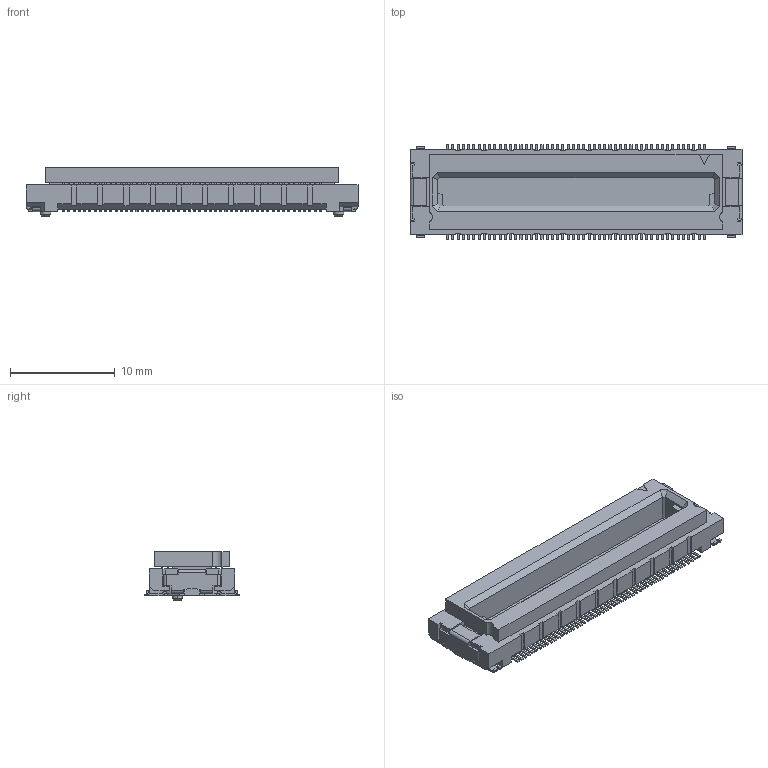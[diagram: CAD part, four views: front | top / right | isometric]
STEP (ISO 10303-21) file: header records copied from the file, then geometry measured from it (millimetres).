
FILE_DESCRIPTION(('Creo Elements/Direct Modeling STEP Export'),'2;1');
FILE_NAME('P39563_DY01-100S.stp','2017-08-10T14:28:58',(''),(''),'Creo Elements/Direct Modeling STEP processor for AP214 (Solid Model)','Creo Elements/Direct Modeling 19.0F 14-Feb-2017 (C) Parametric Technology GmbH','');
FILE_SCHEMA(('AUTOMOTIVE_DESIGN { 1 0 10303 214 1 1 1 1 }'));
Products named in the file (2): DY01-100S
Assembly tree (1 placements, depth 2):
  DY01-100S
    DY01-100S
Bounding box: 31.7 x 9 x 4.65 mm (x, y, z)
Volume: 662.7 mm3; surface area: 1432.3 mm2
Topology: 1 solids, 1 shells, 3059 faces, 8543 edges, 5690 vertices
Faces by surface type: plane 2606, cylinder 449, cone 4
Entity records: 97234 total; most frequent: CARTESIAN_POINT 17156, ORIENTED_EDGE 17086, DIRECTION 15399, EDGE_CURVE 8543, VECTOR 7533, LINE 7533, VERTEX_POINT 5690, AXIS2_PLACEMENT_3D 3933
